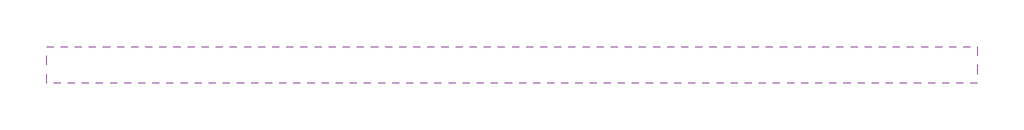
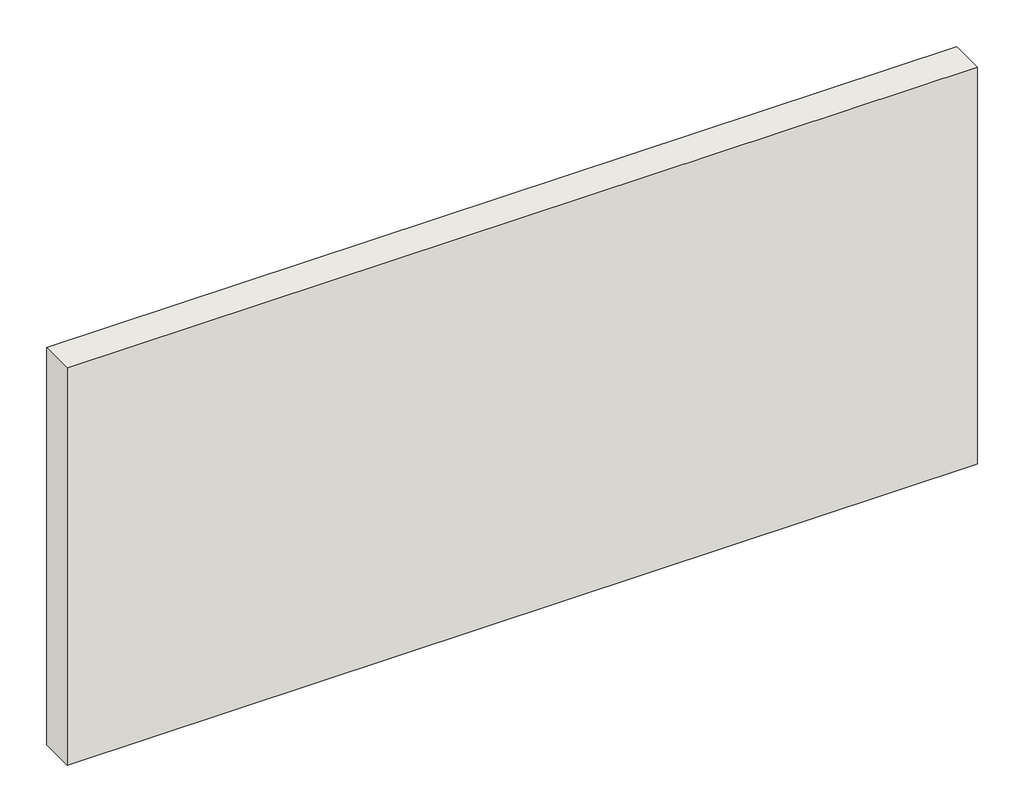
# One storey: 1 wall.
"""IFC4 building model written with IfcOpenShell, lengths in millimetres."""

from ifc_helpers import new_model, si_unit, frame, origin, place, context, project, spatial, polyline, outline, extrude, element, save

model = new_model("IFC4")

# Units and contexts
model_context = context("Model", 3, world=origin())
ifc_project = project(units=[si_unit("LENGTHUNIT", "METRE", prefix="MILLI")], contexts=[model_context])

# Site, building, storey
site = spatial("IfcSite", under=ifc_project)
building = spatial("IfcBuilding", under=site)
storey = spatial("IfcBuildingStorey", under=building, Name="TPFYY/15-12-60-12", Elevation=0.0)

# Wall
placement = place(None, origin())
element("IfcWall", 1, ObjectType="Construction_Thermochip_WALL_TPFYY/ 15-12-60-12 (2400 X 550)", at=placement, inside=storey, context=model_context, shape_type="SweptSolid", body=[
    extrude(outline(polyline([(47816.6663638, -56238.1444819), (45216.6663638, -56238.1444819), (45216.6663638, -56136.1444819), (47816.6663638, -56136.1444819), (47816.6663638, -56238.1444819)])), frame((0.0, 0.0, 2800.0), z_axis=(0.0, 0.0, 1.0), x_axis=(1.0, 0.0, 0.0)), (0.0, 0.0, 1.0), 1200.0),
])

save(model, "model.ifc")
